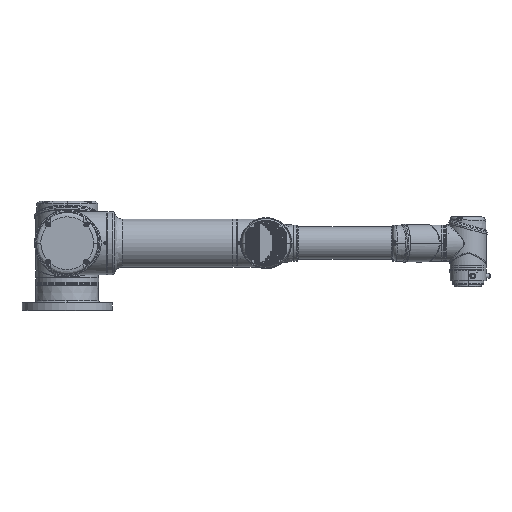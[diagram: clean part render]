
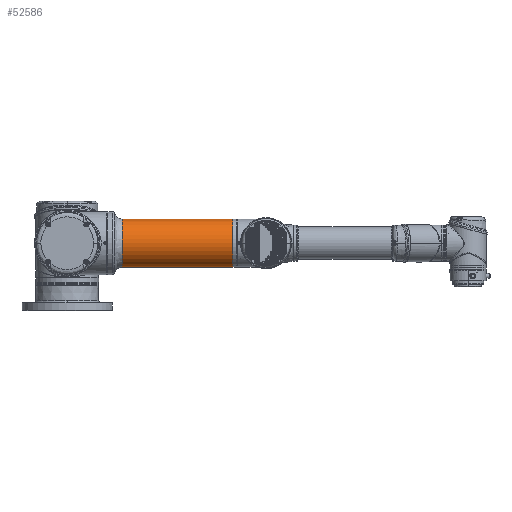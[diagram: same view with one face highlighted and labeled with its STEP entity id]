
A CAD part, front view. The second image highlights one B-rep face of the part: STEP entity #52586.
In plain terms, the highlighted cylindrical face has radius 58 mm (diameter 116 mm), a partial arc.
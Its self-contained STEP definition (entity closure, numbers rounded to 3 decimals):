
#6208 = AXIS2_PLACEMENT_3D ( 'NONE', #24664, #130484, #82596 ) ;
#15384 = EDGE_CURVE ( 'NONE', #187038, #18866, #112508, .T. ) ;
#18866 = VERTEX_POINT ( 'NONE', #71718 ) ;
#21222 = DIRECTION ( 'NONE',  ( 0., 1., 0. ) ) ;
#24664 = CARTESIAN_POINT ( 'NONE',  ( 0., 133.238, 0. ) ) ;
#25266 = DIRECTION ( 'NONE',  ( 0., 1., 0. ) ) ;
#35344 = LINE ( 'NONE', #98121, #48327 ) ;
#47019 = EDGE_CURVE ( 'NONE', #71093, #187038, #35344, .T. ) ;
#48327 = VECTOR ( 'NONE', #84347, 1000. ) ;
#52586 = ADVANCED_FACE ( 'NONE', ( #54656 ), #139958, .T. ) ;
#54408 = DIRECTION ( 'NONE',  ( 0., 0., 1. ) ) ;
#54656 = FACE_OUTER_BOUND ( 'NONE', #171648, .T. ) ;
#65664 = CIRCLE ( 'NONE', #6208, 58. ) ;
#70781 = CARTESIAN_POINT ( 'NONE',  ( 0., 133.238, 58. ) ) ;
#71037 = CARTESIAN_POINT ( 'NONE',  ( 0., 399.5, 0. ) ) ;
#71093 = VERTEX_POINT ( 'NONE', #70781 ) ;
#71718 = CARTESIAN_POINT ( 'NONE',  ( 0., 399.5, -58. ) ) ;
#80871 = ORIENTED_EDGE ( 'NONE', *, *, #135507, .T. ) ;
#82596 = DIRECTION ( 'NONE',  ( 0., 0., 1. ) ) ;
#84347 = DIRECTION ( 'NONE',  ( 0., 1., 0. ) ) ;
#84492 = ORIENTED_EDGE ( 'NONE', *, *, #47019, .T. ) ;
#85284 = VECTOR ( 'NONE', #21222, 1000. ) ;
#98121 = CARTESIAN_POINT ( 'NONE',  ( 0., 87., 58. ) ) ;
#112508 = CIRCLE ( 'NONE', #146855, 58. ) ;
#114273 = CARTESIAN_POINT ( 'NONE',  ( 0., 133.238, -58. ) ) ;
#116398 = CARTESIAN_POINT ( 'NONE',  ( 0., 87., 0. ) ) ;
#119156 = VERTEX_POINT ( 'NONE', #114273 ) ;
#122987 = ORIENTED_EDGE ( 'NONE', *, *, #15384, .T. ) ;
#130484 = DIRECTION ( 'NONE',  ( 0., 1., 0. ) ) ;
#131090 = DIRECTION ( 'NONE',  ( 0., 0., 1. ) ) ;
#131940 = AXIS2_PLACEMENT_3D ( 'NONE', #116398, #25266, #131090 ) ;
#135507 = EDGE_CURVE ( 'NONE', #119156, #71093, #65664, .T. ) ;
#139813 = CARTESIAN_POINT ( 'NONE',  ( 0., 87., -58. ) ) ;
#139958 = CYLINDRICAL_SURFACE ( 'NONE', #131940, 58. ) ;
#145507 = DIRECTION ( 'NONE',  ( 0., -1., 0. ) ) ;
#146855 = AXIS2_PLACEMENT_3D ( 'NONE', #71037, #145507, #54408 ) ;
#150531 = EDGE_CURVE ( 'NONE', #119156, #18866, #184690, .T. ) ;
#156016 = ORIENTED_EDGE ( 'NONE', *, *, #150531, .F. ) ;
#164826 = CARTESIAN_POINT ( 'NONE',  ( 0., 399.5, 58. ) ) ;
#171648 = EDGE_LOOP ( 'NONE', ( #156016, #80871, #84492, #122987 ) ) ;
#184690 = LINE ( 'NONE', #139813, #85284 ) ;
#187038 = VERTEX_POINT ( 'NONE', #164826 ) ;
